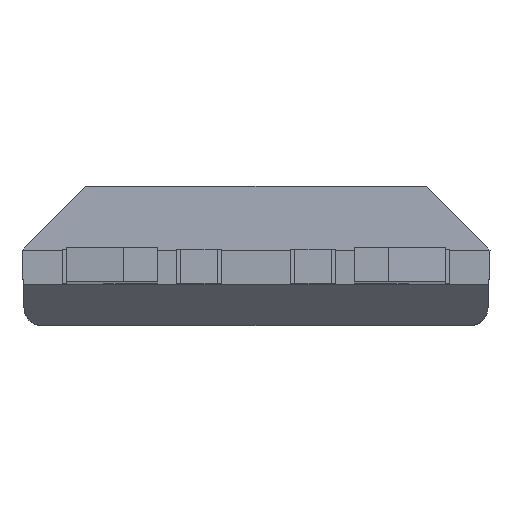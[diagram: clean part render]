
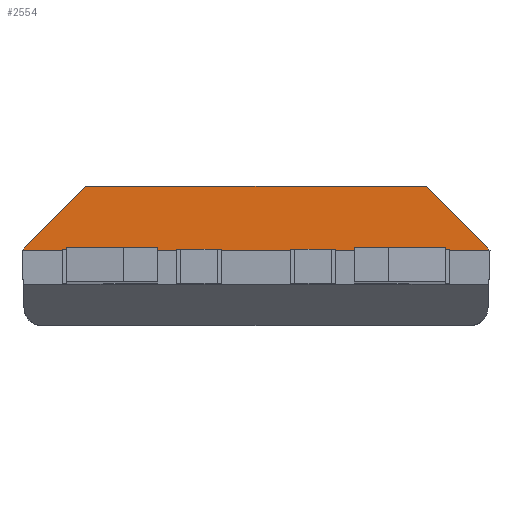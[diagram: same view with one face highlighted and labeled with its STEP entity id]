
A CAD part, top view. The second image highlights one B-rep face of the part: STEP entity #2554.
In plain terms, the highlighted planar face has unit normal (0, 0.035, 0.999).
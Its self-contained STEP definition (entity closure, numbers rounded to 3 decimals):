
#24 = DIRECTION ( 'NONE',  ( 1., 0., 0. ) ) ;
#30 = CARTESIAN_POINT ( 'NONE',  ( -2.603, 0., 1.714 ) ) ;
#61 = CARTESIAN_POINT ( 'NONE',  ( 0.432, 0., 1.714 ) ) ;
#71 = ORIENTED_EDGE ( 'NONE', *, *, #498, .F. ) ;
#102 = CARTESIAN_POINT ( 'NONE',  ( -2.603, 0., 1.714 ) ) ;
#113 = VERTEX_POINT ( 'NONE', #2803 ) ;
#215 = CARTESIAN_POINT ( 'NONE',  ( -2.603, 0., 1.714 ) ) ;
#255 = LINE ( 'NONE', #2741, #2632 ) ;
#259 = VECTOR ( 'NONE', #523, 1000. ) ;
#278 = DIRECTION ( 'NONE',  ( 1., 0., 0. ) ) ;
#279 = EDGE_CURVE ( 'NONE', #2727, #2574, #255, .T. ) ;
#289 = CARTESIAN_POINT ( 'NONE',  ( -2.603, 0., 1.714 ) ) ;
#350 = DIRECTION ( 'NONE',  ( 1., 0., 0. ) ) ;
#362 = VECTOR ( 'NONE', #600, 1000. ) ;
#387 = DIRECTION ( 'NONE',  ( -0.707, 0.707, -0.025 ) ) ;
#400 = DIRECTION ( 'NONE',  ( 0., 0.035, 0.999 ) ) ;
#407 = VECTOR ( 'NONE', #733, 1000. ) ;
#460 = ORIENTED_EDGE ( 'NONE', *, *, #279, .T. ) ;
#493 = LINE ( 'NONE', #30, #2487 ) ;
#497 = CARTESIAN_POINT ( 'NONE',  ( -2.603, 0., 1.714 ) ) ;
#498 = EDGE_CURVE ( 'NONE', #2835, #2299, #1562, .T. ) ;
#508 = CARTESIAN_POINT ( 'NONE',  ( -2.603, 0., 1.714 ) ) ;
#512 = VECTOR ( 'NONE', #350, 1000. ) ;
#523 = DIRECTION ( 'NONE',  ( -0.707, -0.707, 0.025 ) ) ;
#527 = EDGE_CURVE ( 'NONE', #2835, #1413, #2008, .T. ) ;
#594 = DIRECTION ( 'NONE',  ( 0., -0.999, 0.035 ) ) ;
#600 = DIRECTION ( 'NONE',  ( 1., 0., 0. ) ) ;
#605 = EDGE_CURVE ( 'NONE', #1413, #1542, #2040, .T. ) ;
#609 = LINE ( 'NONE', #508, #1247 ) ;
#633 = EDGE_CURVE ( 'NONE', #1175, #1217, #1028, .T. ) ;
#654 = LINE ( 'NONE', #215, #2009 ) ;
#691 = LINE ( 'NONE', #497, #2279 ) ;
#733 = DIRECTION ( 'NONE',  ( 1., 0., 0. ) ) ;
#741 = ORIENTED_EDGE ( 'NONE', *, *, #1800, .T. ) ;
#760 = EDGE_CURVE ( 'NONE', #2574, #1958, #963, .T. ) ;
#797 = CARTESIAN_POINT ( 'NONE',  ( 0.002, 2.602, 1.624 ) ) ;
#803 = DIRECTION ( 'NONE',  ( 1., 0., 0. ) ) ;
#829 = VECTOR ( 'NONE', #387, 1000. ) ;
#848 = VERTEX_POINT ( 'NONE', #61 ) ;
#963 = LINE ( 'NONE', #1876, #362 ) ;
#1027 = CARTESIAN_POINT ( 'NONE',  ( -2.108, 0., 1.714 ) ) ;
#1028 = LINE ( 'NONE', #2063, #512 ) ;
#1037 = LINE ( 'NONE', #797, #829 ) ;
#1175 = VERTEX_POINT ( 'NONE', #2641 ) ;
#1217 = VERTEX_POINT ( 'NONE', #1780 ) ;
#1232 = CARTESIAN_POINT ( 'NONE',  ( -2.603, 0., 1.714 ) ) ;
#1247 = VECTOR ( 'NONE', #2052, 1000. ) ;
#1273 = CARTESIAN_POINT ( 'NONE',  ( -0.838, 0., 1.714 ) ) ;
#1334 = ORIENTED_EDGE ( 'NONE', *, *, #633, .T. ) ;
#1372 = CARTESIAN_POINT ( 'NONE',  ( -2.603, 0.711, 1.69 ) ) ;
#1373 = CARTESIAN_POINT ( 'NONE',  ( 1.892, 0.711, 1.69 ) ) ;
#1413 = VERTEX_POINT ( 'NONE', #2186 ) ;
#1419 = LINE ( 'NONE', #2627, #1932 ) ;
#1456 = DIRECTION ( 'NONE',  ( 1., 0., 0. ) ) ;
#1466 = PLANE ( 'NONE',  #2018 ) ;
#1491 = ORIENTED_EDGE ( 'NONE', *, *, #2737, .T. ) ;
#1500 = EDGE_CURVE ( 'NONE', #1542, #2727, #609, .T. ) ;
#1511 = CARTESIAN_POINT ( 'NONE',  ( -0.432, 0., 1.714 ) ) ;
#1542 = VERTEX_POINT ( 'NONE', #1027 ) ;
#1562 = LINE ( 'NONE', #1372, #407 ) ;
#1595 = VECTOR ( 'NONE', #803, 1000. ) ;
#1606 = ORIENTED_EDGE ( 'NONE', *, *, #2843, .T. ) ;
#1780 = CARTESIAN_POINT ( 'NONE',  ( 1.702, 0., 1.714 ) ) ;
#1800 = EDGE_CURVE ( 'NONE', #113, #2248, #493, .T. ) ;
#1876 = CARTESIAN_POINT ( 'NONE',  ( -2.603, 0., 1.714 ) ) ;
#1932 = VECTOR ( 'NONE', #2821, 1000. ) ;
#1958 = VERTEX_POINT ( 'NONE', #1511 ) ;
#1973 = ORIENTED_EDGE ( 'NONE', *, *, #2256, .T. ) ;
#2008 = LINE ( 'NONE', #289, #259 ) ;
#2009 = VECTOR ( 'NONE', #2840, 1000. ) ;
#2018 = AXIS2_PLACEMENT_3D ( 'NONE', #1232, #400, #594 ) ;
#2040 = LINE ( 'NONE', #102, #1595 ) ;
#2052 = DIRECTION ( 'NONE',  ( 1., 0., 0. ) ) ;
#2063 = CARTESIAN_POINT ( 'NONE',  ( -2.603, 0., 1.714 ) ) ;
#2094 = EDGE_CURVE ( 'NONE', #2248, #2299, #1037, .T. ) ;
#2115 = FACE_OUTER_BOUND ( 'NONE', #2379, .T. ) ;
#2182 = ORIENTED_EDGE ( 'NONE', *, *, #2094, .T. ) ;
#2186 = CARTESIAN_POINT ( 'NONE',  ( -2.603, 0., 1.714 ) ) ;
#2248 = VERTEX_POINT ( 'NONE', #2254 ) ;
#2254 = CARTESIAN_POINT ( 'NONE',  ( 2.603, 0., 1.714 ) ) ;
#2256 = EDGE_CURVE ( 'NONE', #1958, #848, #691, .T. ) ;
#2268 = ORIENTED_EDGE ( 'NONE', *, *, #605, .T. ) ;
#2279 = VECTOR ( 'NONE', #278, 1000. ) ;
#2299 = VERTEX_POINT ( 'NONE', #1373 ) ;
#2379 = EDGE_LOOP ( 'NONE', ( #71, #2800, #2268, #2697, #460, #2445, #1973, #1606, #1334, #1491, #741, #2182 ) ) ;
#2445 = ORIENTED_EDGE ( 'NONE', *, *, #760, .T. ) ;
#2487 = VECTOR ( 'NONE', #24, 1000. ) ;
#2554 = ADVANCED_FACE ( 'NONE', ( #2115 ), #1466, .T. ) ;
#2574 = VERTEX_POINT ( 'NONE', #1273 ) ;
#2575 = CARTESIAN_POINT ( 'NONE',  ( -1.702, 0., 1.714 ) ) ;
#2601 = CARTESIAN_POINT ( 'NONE',  ( -1.892, 0.711, 1.69 ) ) ;
#2627 = CARTESIAN_POINT ( 'NONE',  ( -2.603, 0., 1.714 ) ) ;
#2632 = VECTOR ( 'NONE', #1456, 1000. ) ;
#2641 = CARTESIAN_POINT ( 'NONE',  ( 0.838, 0., 1.714 ) ) ;
#2697 = ORIENTED_EDGE ( 'NONE', *, *, #1500, .T. ) ;
#2727 = VERTEX_POINT ( 'NONE', #2575 ) ;
#2737 = EDGE_CURVE ( 'NONE', #1217, #113, #654, .T. ) ;
#2741 = CARTESIAN_POINT ( 'NONE',  ( -2.603, 0., 1.714 ) ) ;
#2800 = ORIENTED_EDGE ( 'NONE', *, *, #527, .T. ) ;
#2803 = CARTESIAN_POINT ( 'NONE',  ( 2.108, 0., 1.714 ) ) ;
#2821 = DIRECTION ( 'NONE',  ( 1., 0., 0. ) ) ;
#2835 = VERTEX_POINT ( 'NONE', #2601 ) ;
#2840 = DIRECTION ( 'NONE',  ( 1., 0., 0. ) ) ;
#2843 = EDGE_CURVE ( 'NONE', #848, #1175, #1419, .T. ) ;
